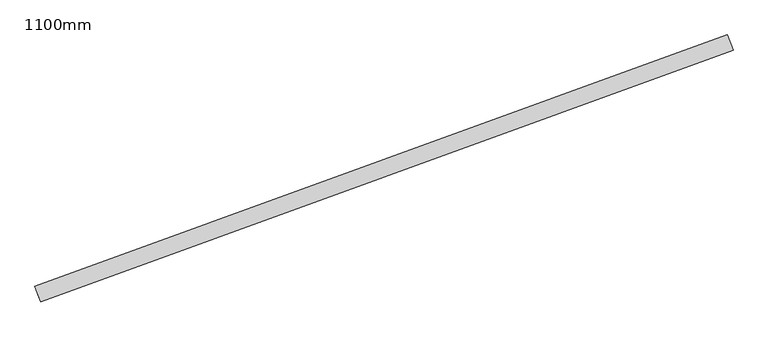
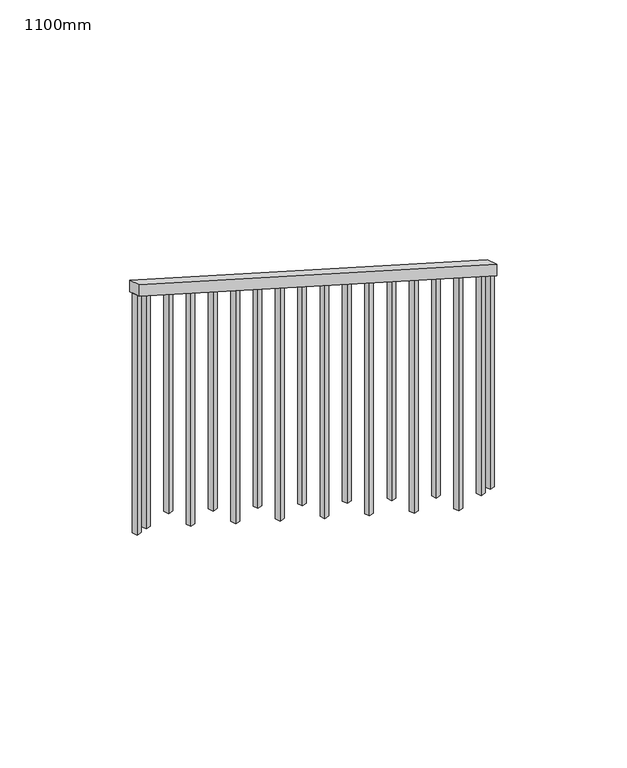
"""IFC4 building model written with IfcOpenShell, lengths in millimetres: railing geometry, 1100mm."""

from ifc_helpers import new_model, si_unit, frame, origin, place, context, project, spatial, polyline, outline, extrude, source, transform, mapped, element, save


def railing_1100mm_a63e6ff6(model_context):
    return source(origin(), model_context, "Body", "SweptSolid", [
        extrude(outline(polyline([(-24.5535714, -50.0), (0.0, 0.0), (2495.5159788, 0.0), (2470.9624073, -50.0000001), (-24.5535714, -50.0)])), frame((22504.9726846, 32360.1223089, 7637.5), z_axis=(-0.34202014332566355, 0.9396926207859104, 0.0), x_axis=(-0.8434774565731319, -0.307000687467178, 0.4407906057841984)), (0.0, 0.0, 1.0), 50.0),
        extrude(outline(polyline([(1247.4215183, -25.0), (106.1383928, -25.0), (93.8616071, 0.0), (1247.4215183, 0.0), (1247.4215183, -25.0)])), frame((20449.8182879, 31625.4095038, 8747.4215183), z_axis=(-0.34202014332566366, 0.9396926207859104, 0.0), x_axis=(0.0, 0.0, -1.0)), (0.0, 0.0, 1.0), 25.0),
        extrude(outline(polyline([(1178.6715183, -25.0), (106.1383928, -25.0), (93.8616071, 0.0), (1178.6715183, 0.0), (1178.6715183, -25.0)])), frame((20581.3752548, 31673.2923239, 8678.6715183), z_axis=(-0.34202014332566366, 0.9396926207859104, 0.0), x_axis=(0.0, 0.0, -1.0)), (0.0, 0.0, 1.0), 25.0),
        extrude(outline(polyline([(1247.4215183, -25.0000001), (106.1383928, -25.0000001), (93.8616071, 0.0), (1247.4215183, 0.0), (1247.4215183, -25.0000001)])), frame((20712.9322217, 31721.175144, 8609.9215183), z_axis=(-0.34202014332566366, 0.9396926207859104, 0.0), x_axis=(0.0, 0.0, -1.0)), (0.0, 0.0, 1.0), 25.0),
        extrude(outline(polyline([(1178.6715183, -25.0000001), (106.1383928, -25.0000001), (93.8616071, 0.0), (1178.6715183, 0.0), (1178.6715183, -25.0000001)])), frame((20844.4891886, 31769.057964, 8541.1715183), z_axis=(-0.34202014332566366, 0.9396926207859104, 0.0), x_axis=(0.0, 0.0, -1.0)), (0.0, 0.0, 1.0), 25.0),
        extrude(outline(polyline([(1247.4215183, -25.0), (106.1383928, -25.0), (93.8616071, 0.0), (1247.4215183, 0.0), (1247.4215183, -25.0)])), frame((20976.0461556, 31816.9407841, 8472.4215183), z_axis=(-0.34202014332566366, 0.9396926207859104, 0.0), x_axis=(0.0, 0.0, -1.0)), (0.0, 0.0, 1.0), 25.0),
        extrude(outline(polyline([(1178.6715183, -25.0), (106.1383928, -25.0), (93.8616071, 0.0), (1178.6715183, 0.0), (1178.6715183, -25.0)])), frame((21107.6031225, 31864.8236042, 8403.6715183), z_axis=(-0.34202014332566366, 0.9396926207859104, 0.0), x_axis=(0.0, 0.0, -1.0)), (0.0, 0.0, 1.0), 25.0),
        extrude(outline(polyline([(1247.4215183, -25.0), (106.1383928, -25.0), (93.8616071, 0.0), (1247.4215183, 0.0), (1247.4215183, -25.0)])), frame((21239.1600894, 31912.7064242, 8334.9215183), z_axis=(-0.34202014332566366, 0.9396926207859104, 0.0), x_axis=(0.0, 0.0, -1.0)), (0.0, 0.0, 1.0), 25.0),
        extrude(outline(polyline([(1178.6715183, -25.0), (106.1383928, -25.0), (93.8616071, 0.0), (1178.6715183, 0.0), (1178.6715183, -25.0)])), frame((21370.7170563, 31960.5892443, 8266.1715183), z_axis=(-0.34202014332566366, 0.9396926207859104, 0.0), x_axis=(0.0, 0.0, -1.0)), (0.0, 0.0, 1.0), 25.0),
        extrude(outline(polyline([(1247.4215183, -25.0), (106.1383928, -25.0), (93.8616071, 0.0), (1247.4215183, 0.0), (1247.4215183, -25.0)])), frame((21502.2740232, 32008.4720644, 8197.4215183), z_axis=(-0.34202014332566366, 0.9396926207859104, 0.0), x_axis=(0.0, 0.0, -1.0)), (0.0, 0.0, 1.0), 25.0),
        extrude(outline(polyline([(1178.6715183, -25.0), (106.1383928, -25.0), (93.8616071, 0.0), (1178.6715183, 0.0), (1178.6715183, -25.0)])), frame((21633.8309901, 32056.3548844, 8128.6715183), z_axis=(-0.34202014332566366, 0.9396926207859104, 0.0), x_axis=(0.0, 0.0, -1.0)), (0.0, 0.0, 1.0), 25.0),
        extrude(outline(polyline([(1247.4215183, -25.0), (106.1383928, -25.0), (93.8616071, 0.0), (1247.4215183, 0.0), (1247.4215183, -25.0)])), frame((21765.387957, 32104.2377045, 8059.9215183), z_axis=(-0.34202014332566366, 0.9396926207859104, 0.0), x_axis=(0.0, 0.0, -1.0)), (0.0, 0.0, 1.0), 25.0),
        extrude(outline(polyline([(1178.6715183, -25.0), (106.1383928, -25.0), (93.8616071, 0.0), (1178.6715183, 0.0), (1178.6715183, -25.0)])), frame((21896.9449239, 32152.1205246, 7991.1715183), z_axis=(-0.34202014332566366, 0.9396926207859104, 0.0), x_axis=(0.0, 0.0, -1.0)), (0.0, 0.0, 1.0), 25.0),
        extrude(outline(polyline([(1247.4215183, -25.0000001), (106.1383928, -25.0000001), (93.8616071, 0.0), (1247.4215183, 0.0), (1247.4215183, -25.0000001)])), frame((22028.5018908, 32200.0033446, 7922.4215183), z_axis=(-0.34202014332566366, 0.9396926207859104, 0.0), x_axis=(0.0, 0.0, -1.0)), (0.0, 0.0, 1.0), 25.0),
        extrude(outline(polyline([(1178.6715183, -25.0000001), (106.1383928, -25.0000001), (93.8616071, 0.0), (1178.6715183, 0.0), (1178.6715183, -25.0000001)])), frame((22160.0588577, 32247.8861647, 7853.6715183), z_axis=(-0.34202014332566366, 0.9396926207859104, 0.0), x_axis=(0.0, 0.0, -1.0)), (0.0, 0.0, 1.0), 25.0),
        extrude(outline(polyline([(1247.4215183, -25.0), (106.1383928, -25.0), (93.8616071, 0.0), (1247.4215183, 0.0), (1247.4215183, -25.0)])), frame((22291.6158247, 32295.7689848, 7784.9215183), z_axis=(-0.34202014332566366, 0.9396926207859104, 0.0), x_axis=(0.0, 0.0, -1.0)), (0.0, 0.0, 1.0), 25.0),
        extrude(outline(polyline([(1178.6715183, -25.0), (106.1383928, -25.0), (93.8616071, 0.0), (1178.6715183, 0.0), (1178.6715183, -25.0)])), frame((22423.1727916, 32343.6518048, 7716.1715183), z_axis=(-0.34202014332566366, 0.9396926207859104, 0.0), x_axis=(0.0, 0.0, -1.0)), (0.0, 0.0, 1.0), 25.0),
        extrude(outline(polyline([(1275.6581255, -25.0), (106.1383929, -25.0), (93.8616072, 0.0), (1275.6581255, 0.0), (1275.6581255, -25.0)])), frame((20395.7859622, 31605.7433456, 8775.6581255), z_axis=(-0.34202014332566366, 0.9396926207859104, 0.0), x_axis=(0.0, 0.0, -1.0)), (0.0, 0.0, 1.0), 25.0),
        extrude(outline(polyline([(1150.4349112, -25.0), (106.1383929, -25.0), (93.8616072, 0.0), (1150.4349112, 0.0), (1150.4349112, -25.0)])), frame((22477.2051173, 32363.3179631, 7687.9349112), z_axis=(-0.34202014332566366, 0.9396926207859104, 0.0), x_axis=(0.0, 0.0, -1.0)), (0.0, 0.0, 1.0), 25.0),
    ])


if __name__ == "__main__":
    model = new_model("IFC4")
    model_context = context("Model", 3, world=origin())
    ifc_project = project(units=[si_unit("LENGTHUNIT", "METRE", prefix="MILLI")], contexts=[model_context])
    site = spatial("IfcSite", under=ifc_project)
    building = spatial("IfcBuilding", under=site)
    placement = place(None, origin())
    railing_1100mm_shape = railing_1100mm_a63e6ff6(model_context)
    element("IfcRailing", 1, ObjectType="1100mm", at=placement, inside=building, context=model_context, shape_type="MappedRepresentation", body=[
        mapped(railing_1100mm_shape, transform((0.0, 0.0, 0.0), x_axis=(1.0, 0.0, 0.0), y_axis=(0.0, 1.0, 0.0), z_axis=(0.0, 0.0, 1.0))),
    ])
    save(model, "model.ifc")
